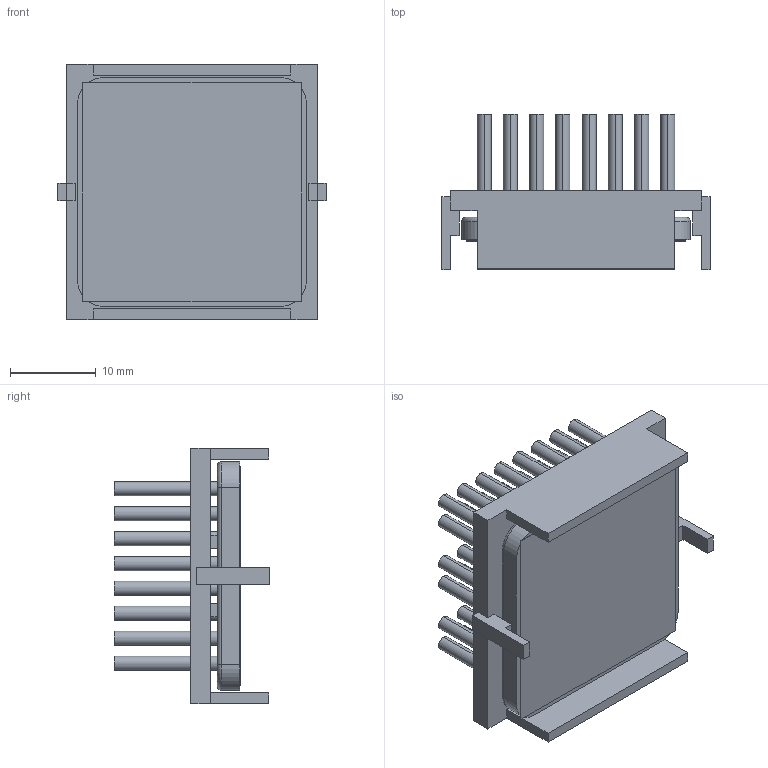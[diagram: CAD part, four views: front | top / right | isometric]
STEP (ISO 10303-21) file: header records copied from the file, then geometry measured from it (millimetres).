
FILE_DESCRIPTION (( 'STEP AP214' ), '1' );
FILE_NAME ('INM27002-15PCU-2.6Y.STEP', '2023-03-02T23:44:50', ( '' ), ( '' ), 'SwSTEP 2.0', 'SolidWorks 2020', '' );
FILE_SCHEMA (( 'AUTOMOTIVE_DESIGN' ));
Length unit declared in the file: inch
Products named in the file (1): INM27002-15PCU-2.6Y
Bounding box: 31.2 x 18.1 x 29.7 mm (x, y, z)
Volume: 4656.9 mm3; surface area: 8569 mm2
Topology: 3 solids, 3 shells, 250 faces, 556 edges, 368 vertices
Faces by surface type: plane 126, cylinder 120, torus 4
Entity records: 10316 total; most frequent: DIRECTION 1302, CARTESIAN_POINT 1175, ORIENTED_EDGE 1112, EDGE_CURVE 556, AXIS2_PLACEMENT_3D 495, VERTEX_POINT 368, LINE 312, VECTOR 312
